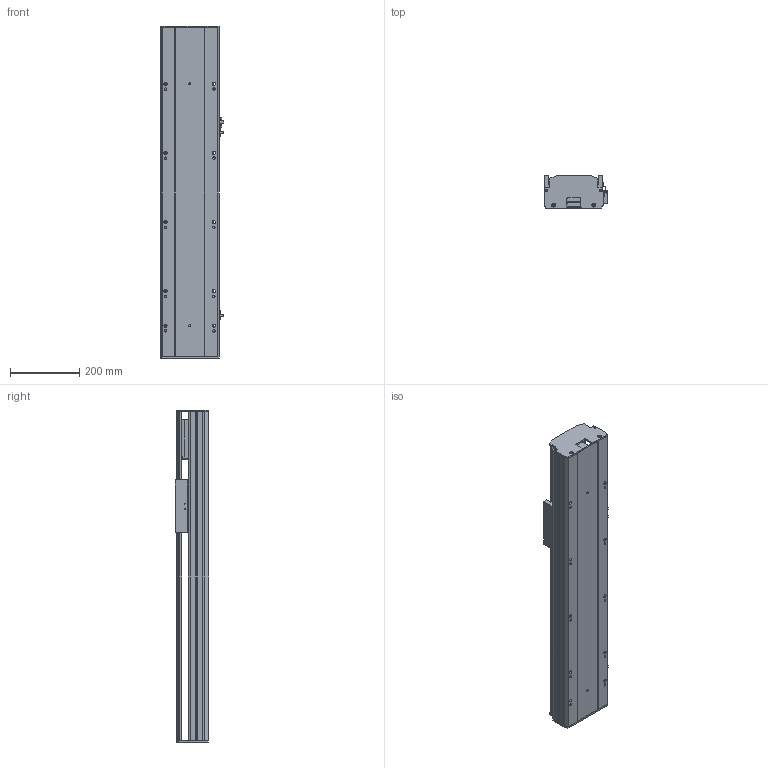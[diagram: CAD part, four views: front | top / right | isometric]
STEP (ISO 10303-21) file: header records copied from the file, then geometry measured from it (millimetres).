
FILE_DESCRIPTION (( 'STEP AP203' ), '1' );
FILE_NAME ('Y170-D10-S550-M-P400W.STEP', '2020-01-22T12:42:00', ( '微软用户' ), ( '微软中国' ), 'SwSTEP 2.0', 'SolidWorks 2017', '' );
FILE_SCHEMA (( 'CONFIG_CONTROL_DESIGN' ));
Length unit declared in the file: millimetre
Products named in the file (10): Y170耜裔--準---M; san松下电机400不带刹车----; Y170-陔遴奻裔-M; YD-Y100-135-新外置传感挡片(通用）; Y170-D10-S550-M-P400W; Y100-135俋离換覜ん; 135-盓傅釱-FK15; Y170耜裔--準---; Y170--雄赽釱-梓--; 170--掛极-M
Assembly tree (11 placements, depth 2):
  Y170-D10-S550-M-P400W
    YD-Y100-135-新外置传感挡片(通用）
    Y100-135俋离換覜ん  x3
    135-盓傅釱-FK15
    Y170耜裔--準---
    Y170--雄赽釱-梓--
    170--掛极-M
    Y170耜裔--準---M
    san松下电机400不带刹车----
    Y170-陔遴奻裔-M
Bounding box: 183.5 x 97 x 961 mm (x, y, z)
Volume: 4366504.1 mm3; surface area: 1516655.9 mm2
Topology: 11 solids, 11 shells, 773 faces, 2180 edges, 1444 vertices
Faces by surface type: cylinder 387, plane 384, torus 2
Entity records: 24860 total; most frequent: CARTESIAN_POINT 4377, DIRECTION 4142, ORIENTED_EDGE 4024, EDGE_CURVE 2012, AXIS2_PLACEMENT_3D 1465, VERTEX_POINT 1332, LINE 1212, VECTOR 1212
